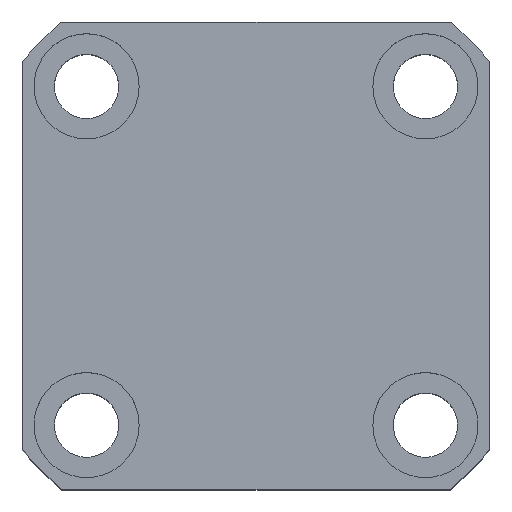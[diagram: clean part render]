
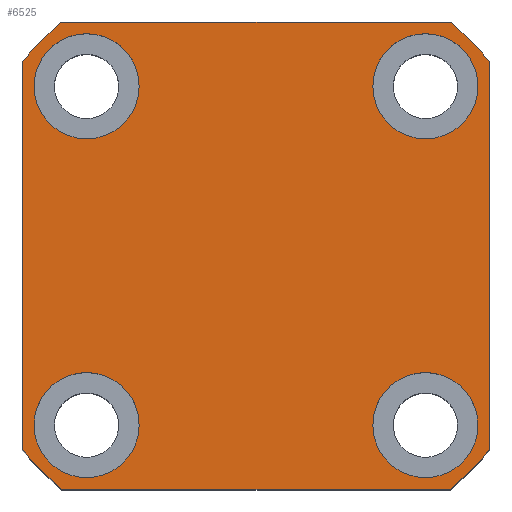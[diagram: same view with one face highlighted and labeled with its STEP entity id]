
A CAD part, top view. The second image highlights one B-rep face of the part: STEP entity #6525.
In plain terms, the highlighted planar face has unit normal (0, 0, 1).
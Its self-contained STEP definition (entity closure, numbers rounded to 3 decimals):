
#17 = AXIS2_PLACEMENT_3D ( 'NONE', #5742, #93, #2893 ) ;
#93 = DIRECTION ( 'NONE',  ( 0., 0., 1. ) ) ;
#121 = LINE ( 'NONE', #5562, #1870 ) ;
#183 = DIRECTION ( 'NONE',  ( 0., 0., 1. ) ) ;
#303 = AXIS2_PLACEMENT_3D ( 'NONE', #17176, #6111, #10234 ) ;
#335 = AXIS2_PLACEMENT_3D ( 'NONE', #6407, #13565, #11925 ) ;
#435 = DIRECTION ( 'NONE',  ( 1., 0., 0. ) ) ;
#516 = ORIENTED_EDGE ( 'NONE', *, *, #14885, .F. ) ;
#550 = AXIS2_PLACEMENT_3D ( 'NONE', #6148, #8812, #435 ) ;
#581 = EDGE_CURVE ( 'NONE', #7103, #14903, #121, .T. ) ;
#714 = EDGE_CURVE ( 'NONE', #9439, #10395, #6225, .T. ) ;
#736 = AXIS2_PLACEMENT_3D ( 'NONE', #11203, #12290, #12788 ) ;
#829 = CARTESIAN_POINT ( 'NONE',  ( 20., 29., 32.5 ) ) ;
#960 = DIRECTION ( 'NONE',  ( 1., 0., 0. ) ) ;
#982 = CARTESIAN_POINT ( 'NONE',  ( -33.226, -40., 32.5 ) ) ;
#1236 = ORIENTED_EDGE ( 'NONE', *, *, #11596, .F. ) ;
#1321 = EDGE_CURVE ( 'NONE', #10335, #1619, #10563, .T. ) ;
#1393 = CARTESIAN_POINT ( 'NONE',  ( -40., -33.226, 32.5 ) ) ;
#1596 = DIRECTION ( 'NONE',  ( 1., 0., 0. ) ) ;
#1619 = VERTEX_POINT ( 'NONE', #13155 ) ;
#1631 = CARTESIAN_POINT ( 'NONE',  ( 0., 0., 32.5 ) ) ;
#1820 = AXIS2_PLACEMENT_3D ( 'NONE', #12356, #2509, #3855 ) ;
#1870 = VECTOR ( 'NONE', #12384, 1000. ) ;
#2114 = CARTESIAN_POINT ( 'NONE',  ( -40., 33.226, 32.5 ) ) ;
#2434 = CARTESIAN_POINT ( 'NONE',  ( 20., -29., 32.5 ) ) ;
#2509 = DIRECTION ( 'NONE',  ( 0., 0., 1. ) ) ;
#2751 = CARTESIAN_POINT ( 'NONE',  ( 0., 0., 32.5 ) ) ;
#2893 = DIRECTION ( 'NONE',  ( 1., 0., 0. ) ) ;
#2991 = CARTESIAN_POINT ( 'NONE',  ( -20., 29., 32.5 ) ) ;
#3056 = AXIS2_PLACEMENT_3D ( 'NONE', #5523, #17991, #8197 ) ;
#3124 = CARTESIAN_POINT ( 'NONE',  ( -29., 29., 32.5 ) ) ;
#3365 = ORIENTED_EDGE ( 'NONE', *, *, #16591, .T. ) ;
#3683 = AXIS2_PLACEMENT_3D ( 'NONE', #4072, #17874, #13683 ) ;
#3687 = VERTEX_POINT ( 'NONE', #9371 ) ;
#3807 = CARTESIAN_POINT ( 'NONE',  ( -38., -29., 32.5 ) ) ;
#3855 = DIRECTION ( 'NONE',  ( 1., 0., 0. ) ) ;
#4019 = EDGE_LOOP ( 'NONE', ( #17159, #516 ) ) ;
#4072 = CARTESIAN_POINT ( 'NONE',  ( 29., 29., 32.5 ) ) ;
#4094 = VECTOR ( 'NONE', #12023, 1000. ) ;
#4116 = LINE ( 'NONE', #11862, #8666 ) ;
#4225 = ORIENTED_EDGE ( 'NONE', *, *, #16955, .F. ) ;
#4254 = AXIS2_PLACEMENT_3D ( 'NONE', #2751, #12427, #7120 ) ;
#4826 = VERTEX_POINT ( 'NONE', #2434 ) ;
#4974 = VERTEX_POINT ( 'NONE', #1393 ) ;
#5082 = AXIS2_PLACEMENT_3D ( 'NONE', #1631, #183, #11323 ) ;
#5195 = VECTOR ( 'NONE', #12184, 1000. ) ;
#5397 = CIRCLE ( 'NONE', #5082, 52. ) ;
#5523 = CARTESIAN_POINT ( 'NONE',  ( 0., 0., 32.5 ) ) ;
#5562 = CARTESIAN_POINT ( 'NONE',  ( -33.226, -40., 32.5 ) ) ;
#5599 = LINE ( 'NONE', #2114, #4094 ) ;
#5720 = PLANE ( 'NONE',  #4254 ) ;
#5742 = CARTESIAN_POINT ( 'NONE',  ( 0., 0., 32.5 ) ) ;
#5761 = AXIS2_PLACEMENT_3D ( 'NONE', #14933, #13606, #960 ) ;
#5922 = FACE_BOUND ( 'NONE', #16960, .T. ) ;
#6089 = DIRECTION ( 'NONE',  ( 0., 0., 1. ) ) ;
#6111 = DIRECTION ( 'NONE',  ( 0., 0., 1. ) ) ;
#6148 = CARTESIAN_POINT ( 'NONE',  ( 29., -29., 32.5 ) ) ;
#6225 = CIRCLE ( 'NONE', #17, 52. ) ;
#6374 = FACE_OUTER_BOUND ( 'NONE', #8562, .T. ) ;
#6407 = CARTESIAN_POINT ( 'NONE',  ( 29., -29., 32.5 ) ) ;
#6452 = VERTEX_POINT ( 'NONE', #13411 ) ;
#6525 = ADVANCED_FACE ( 'NONE', ( #5922, #15277, #12453, #13762, #6374 ), #5720, .T. ) ;
#6726 = VERTEX_POINT ( 'NONE', #2991 ) ;
#6910 = VERTEX_POINT ( 'NONE', #13159 ) ;
#6920 = EDGE_CURVE ( 'NONE', #16254, #4826, #9806, .T. ) ;
#6970 = EDGE_LOOP ( 'NONE', ( #8456, #10163 ) ) ;
#6999 = ORIENTED_EDGE ( 'NONE', *, *, #15752, .T. ) ;
#7103 = VERTEX_POINT ( 'NONE', #982 ) ;
#7120 = DIRECTION ( 'NONE',  ( 1., 0., 0. ) ) ;
#7363 = VERTEX_POINT ( 'NONE', #17194 ) ;
#7365 = ORIENTED_EDGE ( 'NONE', *, *, #17127, .F. ) ;
#7919 = CARTESIAN_POINT ( 'NONE',  ( -33.226, 40., 32.5 ) ) ;
#8197 = DIRECTION ( 'NONE',  ( 1., 0., 0. ) ) ;
#8424 = CIRCLE ( 'NONE', #303, 9. ) ;
#8456 = ORIENTED_EDGE ( 'NONE', *, *, #16987, .F. ) ;
#8562 = EDGE_LOOP ( 'NONE', ( #14897, #3365, #13232, #16585, #10439, #13711, #8873, #6999 ) ) ;
#8666 = VECTOR ( 'NONE', #11683, 1000. ) ;
#8750 = CARTESIAN_POINT ( 'NONE',  ( 40., 33.226, 32.5 ) ) ;
#8812 = DIRECTION ( 'NONE',  ( 0., 0., 1. ) ) ;
#8818 = CARTESIAN_POINT ( 'NONE',  ( -33.226, 40., 32.5 ) ) ;
#8873 = ORIENTED_EDGE ( 'NONE', *, *, #1321, .T. ) ;
#9155 = VERTEX_POINT ( 'NONE', #3807 ) ;
#9371 = CARTESIAN_POINT ( 'NONE',  ( -20., -29., 32.5 ) ) ;
#9439 = VERTEX_POINT ( 'NONE', #8818 ) ;
#9806 = CIRCLE ( 'NONE', #335, 9. ) ;
#9978 = DIRECTION ( 'NONE',  ( 0., 0., 1. ) ) ;
#10144 = DIRECTION ( 'NONE',  ( 1., 0., 0. ) ) ;
#10163 = ORIENTED_EDGE ( 'NONE', *, *, #17315, .F. ) ;
#10234 = DIRECTION ( 'NONE',  ( 1., 0., 0. ) ) ;
#10335 = VERTEX_POINT ( 'NONE', #8750 ) ;
#10395 = VERTEX_POINT ( 'NONE', #12059 ) ;
#10439 = ORIENTED_EDGE ( 'NONE', *, *, #14188, .T. ) ;
#10563 = CIRCLE ( 'NONE', #3056, 52. ) ;
#10807 = AXIS2_PLACEMENT_3D ( 'NONE', #15618, #6089, #10144 ) ;
#10834 = CIRCLE ( 'NONE', #550, 9. ) ;
#11203 = CARTESIAN_POINT ( 'NONE',  ( 29., 29., 32.5 ) ) ;
#11264 = CIRCLE ( 'NONE', #3683, 9. ) ;
#11323 = DIRECTION ( 'NONE',  ( 1., 0., 0. ) ) ;
#11596 = EDGE_CURVE ( 'NONE', #6726, #7363, #11763, .T. ) ;
#11683 = DIRECTION ( 'NONE',  ( 0., 1., 0. ) ) ;
#11763 = CIRCLE ( 'NONE', #15640, 9. ) ;
#11862 = CARTESIAN_POINT ( 'NONE',  ( 40., 33.226, 32.5 ) ) ;
#11925 = DIRECTION ( 'NONE',  ( 1., 0., 0. ) ) ;
#11967 = CIRCLE ( 'NONE', #736, 9. ) ;
#12023 = DIRECTION ( 'NONE',  ( 0., -1., 0. ) ) ;
#12059 = CARTESIAN_POINT ( 'NONE',  ( -40., 33.226, 32.5 ) ) ;
#12184 = DIRECTION ( 'NONE',  ( -1., 0., 0. ) ) ;
#12290 = DIRECTION ( 'NONE',  ( 0., 0., 1. ) ) ;
#12356 = CARTESIAN_POINT ( 'NONE',  ( -29., -29., 32.5 ) ) ;
#12363 = LINE ( 'NONE', #7919, #5195 ) ;
#12366 = ORIENTED_EDGE ( 'NONE', *, *, #6920, .F. ) ;
#12384 = DIRECTION ( 'NONE',  ( 1., 0., 0. ) ) ;
#12427 = DIRECTION ( 'NONE',  ( 0., 0., 1. ) ) ;
#12453 = FACE_BOUND ( 'NONE', #14108, .T. ) ;
#12764 = EDGE_CURVE ( 'NONE', #6452, #16618, #11967, .T. ) ;
#12788 = DIRECTION ( 'NONE',  ( 1., 0., 0. ) ) ;
#12847 = CARTESIAN_POINT ( 'NONE',  ( 38., -29., 32.5 ) ) ;
#13155 = CARTESIAN_POINT ( 'NONE',  ( 33.226, 40., 32.5 ) ) ;
#13159 = CARTESIAN_POINT ( 'NONE',  ( 40., -33.226, 32.5 ) ) ;
#13232 = ORIENTED_EDGE ( 'NONE', *, *, #16049, .T. ) ;
#13411 = CARTESIAN_POINT ( 'NONE',  ( 38., 29., 32.5 ) ) ;
#13471 = CIRCLE ( 'NONE', #1820, 9. ) ;
#13565 = DIRECTION ( 'NONE',  ( 0., 0., 1. ) ) ;
#13606 = DIRECTION ( 'NONE',  ( 0., 0., 1. ) ) ;
#13683 = DIRECTION ( 'NONE',  ( 1., 0., 0. ) ) ;
#13711 = ORIENTED_EDGE ( 'NONE', *, *, #17784, .T. ) ;
#13762 = FACE_BOUND ( 'NONE', #4019, .T. ) ;
#14108 = EDGE_LOOP ( 'NONE', ( #1236, #7365 ) ) ;
#14188 = EDGE_CURVE ( 'NONE', #14903, #6910, #15844, .T. ) ;
#14885 = EDGE_CURVE ( 'NONE', #16618, #6452, #11264, .T. ) ;
#14897 = ORIENTED_EDGE ( 'NONE', *, *, #714, .T. ) ;
#14903 = VERTEX_POINT ( 'NONE', #16574 ) ;
#14933 = CARTESIAN_POINT ( 'NONE',  ( 0., 0., 32.5 ) ) ;
#15277 = FACE_BOUND ( 'NONE', #6970, .T. ) ;
#15618 = CARTESIAN_POINT ( 'NONE',  ( -29., -29., 32.5 ) ) ;
#15640 = AXIS2_PLACEMENT_3D ( 'NONE', #3124, #9978, #1596 ) ;
#15752 = EDGE_CURVE ( 'NONE', #1619, #9439, #12363, .T. ) ;
#15844 = CIRCLE ( 'NONE', #5761, 52. ) ;
#16049 = EDGE_CURVE ( 'NONE', #4974, #7103, #5397, .T. ) ;
#16254 = VERTEX_POINT ( 'NONE', #12847 ) ;
#16574 = CARTESIAN_POINT ( 'NONE',  ( 33.226, -40., 32.5 ) ) ;
#16585 = ORIENTED_EDGE ( 'NONE', *, *, #581, .T. ) ;
#16591 = EDGE_CURVE ( 'NONE', #10395, #4974, #5599, .T. ) ;
#16618 = VERTEX_POINT ( 'NONE', #829 ) ;
#16955 = EDGE_CURVE ( 'NONE', #4826, #16254, #10834, .T. ) ;
#16960 = EDGE_LOOP ( 'NONE', ( #12366, #4225 ) ) ;
#16987 = EDGE_CURVE ( 'NONE', #3687, #9155, #17148, .T. ) ;
#17127 = EDGE_CURVE ( 'NONE', #7363, #6726, #8424, .T. ) ;
#17148 = CIRCLE ( 'NONE', #10807, 9. ) ;
#17159 = ORIENTED_EDGE ( 'NONE', *, *, #12764, .F. ) ;
#17176 = CARTESIAN_POINT ( 'NONE',  ( -29., 29., 32.5 ) ) ;
#17194 = CARTESIAN_POINT ( 'NONE',  ( -38., 29., 32.5 ) ) ;
#17315 = EDGE_CURVE ( 'NONE', #9155, #3687, #13471, .T. ) ;
#17784 = EDGE_CURVE ( 'NONE', #6910, #10335, #4116, .T. ) ;
#17874 = DIRECTION ( 'NONE',  ( 0., 0., 1. ) ) ;
#17991 = DIRECTION ( 'NONE',  ( 0., 0., 1. ) ) ;
